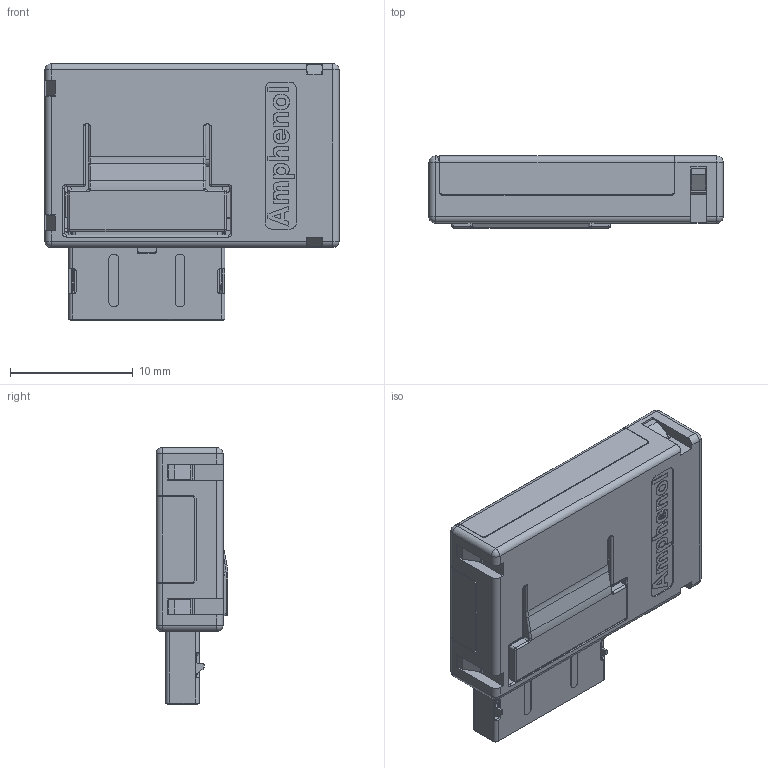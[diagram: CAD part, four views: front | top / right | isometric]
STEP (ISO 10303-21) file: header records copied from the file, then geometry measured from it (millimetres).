
FILE_DESCRIPTION((''),'2;1');
FILE_NAME('OCULINK_RIGHT_SIDE_EXIT_2016062_ASM','2016-08-15T',('louischan'),(''),'PRO/ENGINEER BY PARAMETRIC TECHNOLOGY CORPORATION, 2013230','PRO/ENGINEER BY PARAMETRIC TECHNOLOGY CORPORATION, 2013230','');
FILE_SCHEMA(('CONFIG_CONTROL_DESIGN'));
Length unit declared in the file: millimetre
Products named in the file (15): OCULINK_PLUG_STR_TML2_1_1; OCULINK_PLUG_STR_CORE4_11_1_1; OCULINK_PLUG_STR_TML2_ASM_1_ASM_ASM; OCULINK_PLUG_STR_TML1_1_1; OCULINK_PLUG_STR_CORE5_16_1_1; PLUG_B_T_ASM_1_ASM_1_ASM; OCULINK_PLUG_STR_CORE1_27_1_1; PCB_1_1; BOTTOM-COVER_9_1; TOP-COVER_20_1; OVERMOLD2_1_1; T-RMHLAT0054_REV_B_4_1; OCULINK_20150118_ASM_9_ASM_1_ASM; PLUG_SHELL5; OCULINK_RIGHT_SIDE_EXIT_2016062_ASM
Assembly tree (56 placements, depth 4):
  OCULINK_RIGHT_SIDE_EXIT_2016062_ASM
    OCULINK_20150118_ASM_9_ASM_1_ASM
      OCULINK_PLUG_STR_TML2_ASM_1_ASM_ASM
        OCULINK_PLUG_STR_TML2_1_1  x21
        OCULINK_PLUG_STR_CORE4_11_1_1
      PLUG_B_T_ASM_1_ASM_1_ASM
        OCULINK_PLUG_STR_TML1_1_1  x21
        OCULINK_PLUG_STR_CORE5_16_1_1
      OCULINK_PLUG_STR_CORE1_27_1_1
      PCB_1_1
      BOTTOM-COVER_9_1
      TOP-COVER_20_1
      OCULINK_PLUG_STR_CORE4_11_1_1  x2
      OVERMOLD2_1_1
      T-RMHLAT0054_REV_B_4_1
    PLUG_SHELL5
Bounding box: 24 x 5.86 x 20.95 mm (x, y, z)
Volume: 1739.1 mm3; surface area: 4784.2 mm2
Topology: 53 solids, 53 shells, 3825 faces, 9788 edges, 5927 vertices
Faces by surface type: plane 2760, cylinder 895, extrusion 89, sphere 29, cone 27, torus 18, bspline 7
Entity records: 57730 total; most frequent: CARTESIAN_POINT 11574, ORIENTED_EDGE 9954, DIRECTION 8964, EDGE_CURVE 4977, VECTOR 4174, LINE 4085, VERTEX_POINT 3167, AXIS2_PLACEMENT_3D 2395
